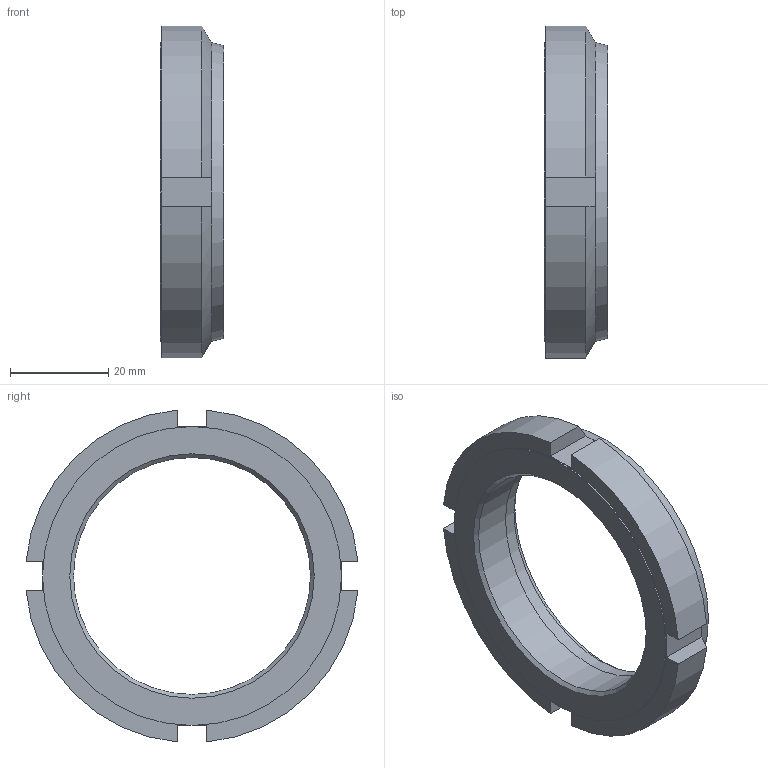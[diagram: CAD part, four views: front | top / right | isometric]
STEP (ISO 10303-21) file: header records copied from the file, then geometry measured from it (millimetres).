
FILE_DESCRIPTION( ( 'STEP AP203' ), '1' );
FILE_NAME( 'C:/Temp/Ganter_Step_05_03_2020/data/3_2/gn1804_1/Slotted locknut self-locking GN 1804.1-M50x1,5.stp', '2020-03-13T05:25:18', ( 'License CC BY-ND 4.0' ), ( 'CADENAS' ), ' ', 'PARTsolutions', ' ' );
FILE_SCHEMA( ( 'CONFIG_CONTROL_DESIGN' ) );
Length unit declared in the file: millimetre
Products named in the file (1): _Slotted locknut self-locking GN 1804.1-M50x1,5
Bounding box: 13 x 67.73 x 67.73 mm (x, y, z)
Volume: 18974.4 mm3; surface area: 7925.2 mm2
Topology: 1 solids, 1 shells, 34 faces, 79 edges, 49 vertices
Faces by surface type: plane 20, cylinder 8, cone 6
Full cylindrical faces by diameter (mm): 48.376 x1, 49.5 x1, 52 x1, 61 x1
Entity records: 1018 total; most frequent: CARTESIAN_POINT 229, DIRECTION 152, ORIENTED_EDGE 146, EDGE_CURVE 73, AXIS2_PLACEMENT_3D 60, VERTEX_POINT 49, EDGE_LOOP 44, FACE_OUTER_BOUND 38
